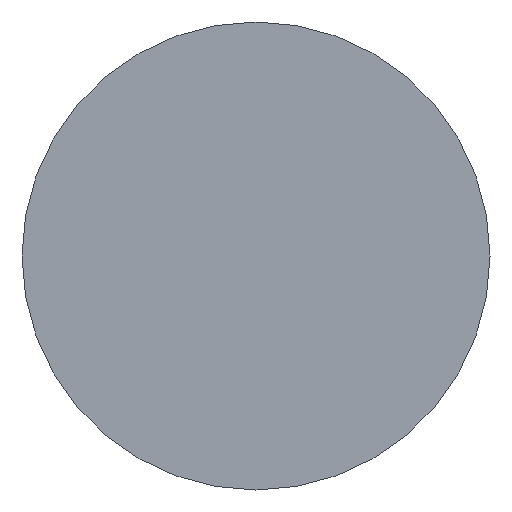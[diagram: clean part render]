
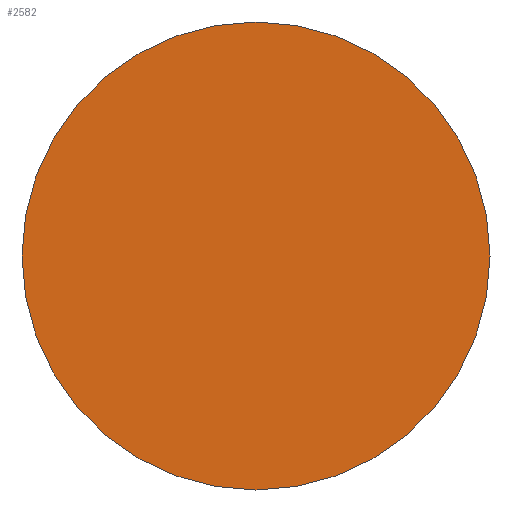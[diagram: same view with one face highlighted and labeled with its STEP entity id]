
A CAD part, front view. The second image highlights one B-rep face of the part: STEP entity #2582.
In plain terms, the highlighted planar face has unit normal (0, -1, 0).
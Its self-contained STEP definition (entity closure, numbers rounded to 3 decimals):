
#132 = DIRECTION ( 'NONE',  ( 0., -1., 0. ) ) ;
#151 = CARTESIAN_POINT ( 'NONE',  ( -29.5, -47.5, 29.5 ) ) ;
#270 = AXIS2_PLACEMENT_3D ( 'NONE', #2014, #725, #2219 ) ;
#285 = EDGE_LOOP ( 'NONE', ( #2423, #1488 ) ) ;
#602 = AXIS2_PLACEMENT_3D ( 'NONE', #1401, #132, #1629 ) ;
#725 = DIRECTION ( 'NONE',  ( 0., -1., 0. ) ) ;
#849 = EDGE_CURVE ( 'NONE', #1173, #1465, #1641, .T. ) ;
#893 = CARTESIAN_POINT ( 'NONE',  ( 0., -47.5, 29.5 ) ) ;
#1054 = CIRCLE ( 'NONE', #2676, 29.5 ) ;
#1107 = DIRECTION ( 'NONE',  ( -1., 0., 0. ) ) ;
#1173 = VERTEX_POINT ( 'NONE', #151 ) ;
#1175 = FACE_OUTER_BOUND ( 'NONE', #285, .T. ) ;
#1401 = CARTESIAN_POINT ( 'NONE',  ( 14.75, -47.5, 29.5 ) ) ;
#1465 = VERTEX_POINT ( 'NONE', #1561 ) ;
#1488 = ORIENTED_EDGE ( 'NONE', *, *, #1541, .T. ) ;
#1541 = EDGE_CURVE ( 'NONE', #1465, #1173, #1054, .T. ) ;
#1561 = CARTESIAN_POINT ( 'NONE',  ( 29.5, -47.5, 29.5 ) ) ;
#1629 = DIRECTION ( 'NONE',  ( -1., 0., 0. ) ) ;
#1641 = CIRCLE ( 'NONE', #270, 29.5 ) ;
#2014 = CARTESIAN_POINT ( 'NONE',  ( 0., -47.5, 29.5 ) ) ;
#2219 = DIRECTION ( 'NONE',  ( -1., 0., 0. ) ) ;
#2255 = PLANE ( 'NONE',  #602 ) ;
#2369 = DIRECTION ( 'NONE',  ( 0., -1., 0. ) ) ;
#2423 = ORIENTED_EDGE ( 'NONE', *, *, #849, .T. ) ;
#2582 = ADVANCED_FACE ( 'NONE', ( #1175 ), #2255, .T. ) ;
#2676 = AXIS2_PLACEMENT_3D ( 'NONE', #893, #2369, #1107 ) ;
